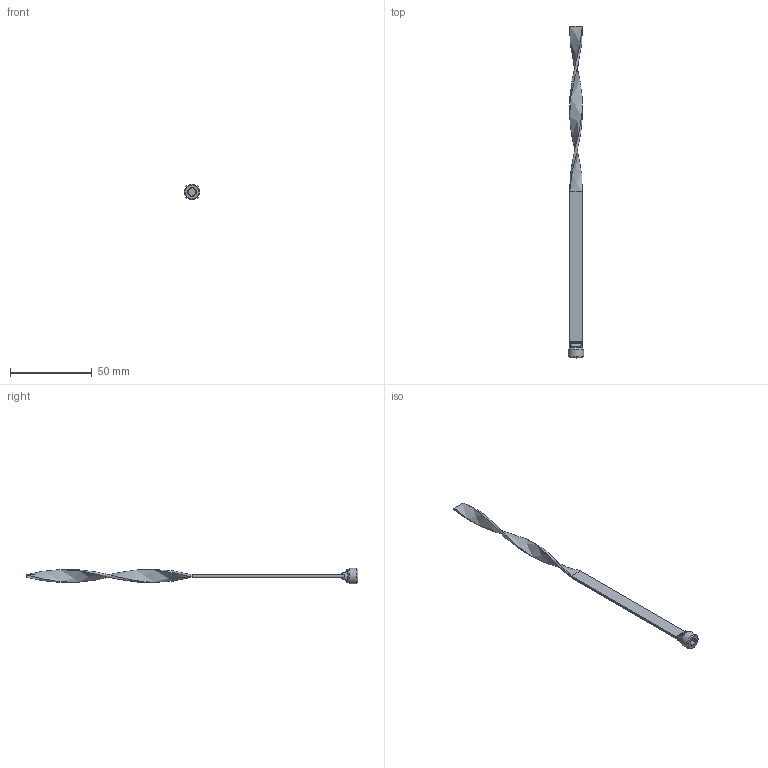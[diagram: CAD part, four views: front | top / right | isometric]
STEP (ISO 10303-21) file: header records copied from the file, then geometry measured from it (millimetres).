
FILE_DESCRIPTION(/* description */ (''),/* implementation_level */ '2;1');
FILE_NAME(/* name */ 'C:/Users/drich/Desktop/TB18X8 v1.step',/* time_stamp */ '2020-01-14T09:03:55-06:00',/* author */ (''),/* organization */ (''),/* preprocessor_version */ 'ST-DEVELOPER v18',/* originating_system */ 'Autodesk Translation Framework v8.12.0.6',/* authorisation */ '');
FILE_SCHEMA (('AUTOMOTIVE_DESIGN { 1 0 10303 214 3 1 1 }'));
Length unit declared in the file: inch
Products named in the file (1): TB18X8
Bounding box: 9.62 x 203.2 x 9.62 mm (x, y, z)
Volume: 2650.6 mm3; surface area: 4053.4 mm2
Topology: 2 solids, 2 shells, 41 faces, 112 edges, 76 vertices
Faces by surface type: plane 21, cylinder 8, torus 5, bspline 4, cone 3
Full cylindrical faces by diameter (mm): 7.772 x1, 9.621 x1
Entity records: 1614 total; most frequent: CARTESIAN_POINT 582, ORIENTED_EDGE 224, DIRECTION 187, EDGE_CURVE 112, VERTEX_POINT 76, AXIS2_PLACEMENT_3D 69, LINE 49, VECTOR 49
